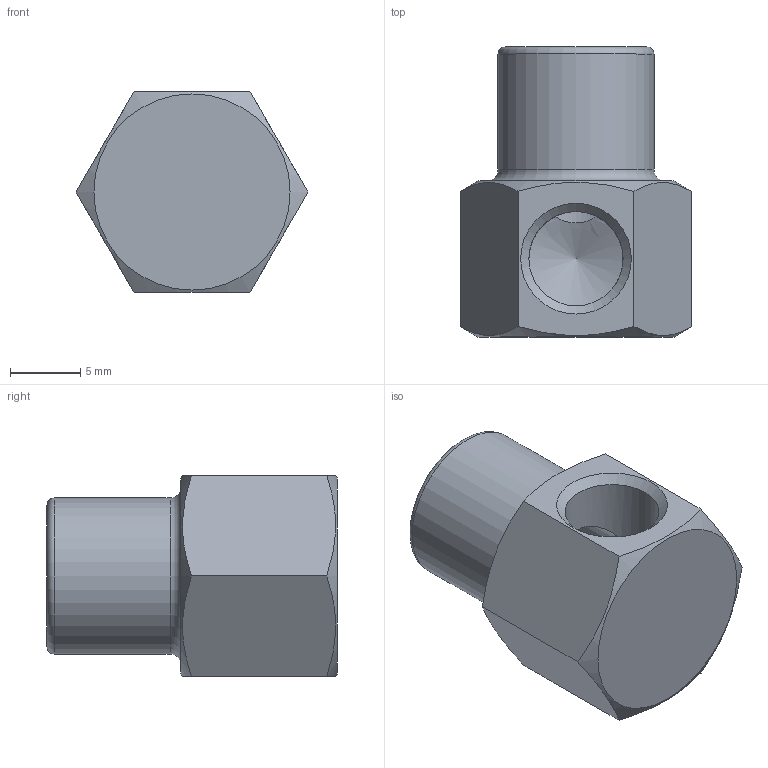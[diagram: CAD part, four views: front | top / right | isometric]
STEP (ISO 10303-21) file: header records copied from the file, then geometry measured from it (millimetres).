
FILE_DESCRIPTION(/* description */ (''),/* implementation_level */ '2;1');
FILE_NAME(/* name */ 'C:/Users/drich/Desktop/16B v1.step',/* time_stamp */ '2020-01-14T10:39:56-06:00',/* author */ (''),/* organization */ (''),/* preprocessor_version */ 'ST-DEVELOPER v18',/* originating_system */ 'Autodesk Translation Framework v8.12.0.6',/* authorisation */ '');
FILE_SCHEMA (('AUTOMOTIVE_DESIGN { 1 0 10303 214 3 1 1 }'));
Length unit declared in the file: inch
Products named in the file (1): 16B
Bounding box: 16.48 x 20.62 x 14.27 mm (x, y, z)
Volume: 2060.4 mm3; surface area: 1586.3 mm2
Topology: 2 solids, 2 shells, 25 faces, 64 edges, 41 vertices
Faces by surface type: cylinder 9, plane 9, cone 5, torus 2
Full cylindrical faces by diameter (mm): 6.697 x2, 11.1 x1
Entity records: 833 total; most frequent: CARTESIAN_POINT 196, ORIENTED_EDGE 130, DIRECTION 127, EDGE_CURVE 65, AXIS2_PLACEMENT_3D 56, VERTEX_POINT 41, EDGE_LOOP 28, FACE_OUTER_BOUND 25
